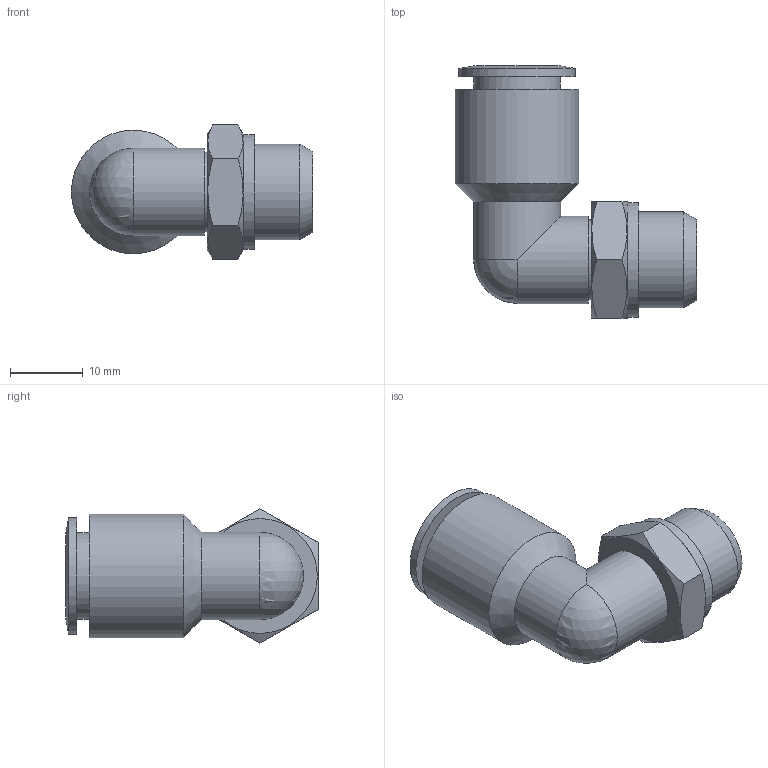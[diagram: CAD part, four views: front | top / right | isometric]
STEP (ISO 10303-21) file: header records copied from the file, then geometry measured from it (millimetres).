
FILE_DESCRIPTION((''),'2;1');
FILE_NAME('C:\Documents and Settings\rivolro1\Documenti\copia di Raccordi\PLASTICA\T22XXXX\T221014.stp','2007-11-02T14:27:34',('Rivolro1'),(''),'Autodesk Inventor 2008','Autodesk Inventor 2008','');
FILE_SCHEMA(('AUTOMOTIVE_DESIGN { 1 0 10303 214 1 1 1 1 }'));
Length unit declared in the file: millimetre
Products named in the file (1): T221014
Bounding box: 33.2 x 34.7 x 18.48 mm (x, y, z)
Volume: 5673.3 mm3; surface area: 4423.9 mm2
Topology: 1 solids, 1 shells, 37 faces, 84 edges, 51 vertices
Faces by surface type: plane 14, cylinder 12, cone 6, bspline 4, sphere 1
Full cylindrical faces by diameter (mm): 6 x1, 8.3 x1, 11 x1, 11.2 x1, 11.9 x1, 12 x2, 13.2 x1, 15.8 x1, 16 x1, 17 x1
Entity records: 1072 total; most frequent: CARTESIAN_POINT 313, DIRECTION 142, ORIENTED_EDGE 112, AXIS2_PLACEMENT_3D 66, EDGE_LOOP 63, EDGE_CURVE 56, VERTEX_POINT 45, FACE_OUTER_BOUND 37
